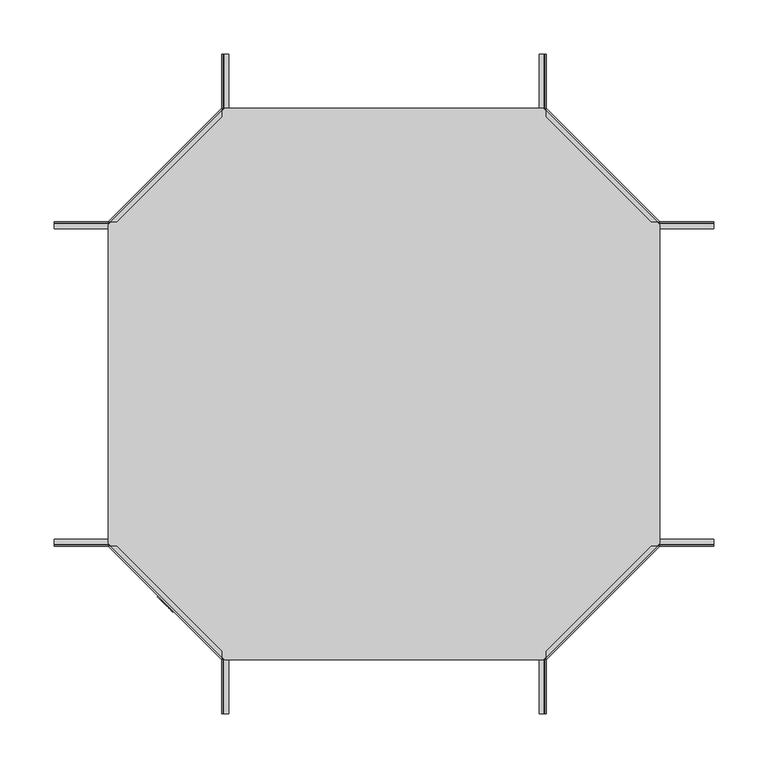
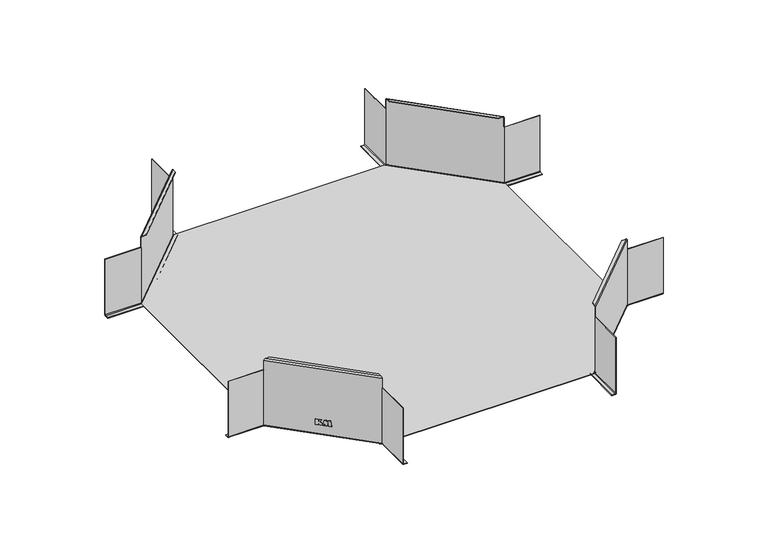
"""IFC4 building model written with IfcOpenShell, lengths in millimetres: cable carrier fitting geometry, КМ Профиль Х-разветвитель XD : Х-разветвитель XD."""

from ifc_helpers import new_model, si_unit, frame, origin, place, context, project, spatial, polyline, circle_curve, ellipse_curve, outline, extrude, source, transform, mapped, element, save
from ifc_brep_helpers import plane_surface, cylinder_surface, revolved_surface, advanced_brep


def cable_carrier_fitting_1a4faf06(model_context):
    return source(origin(), model_context, "Body", "SolidModel", [
        extrude(outline(polyline([(-7.7728441, 0.0), (-0.0215801, 0.0), (-0.0215801, -3.5758269), (-3.1869209, -3.5758269), (-0.0215801, -5.2800314), (-0.0215801, -9.1784428), (-3.5649671, -7.3111337), (-4.2503392, -5.0693826), (-7.7728441, -7.5358671), (-7.7728441, -5.4099024), (-4.1944921, -3.5072589), (-7.7728441, -3.5072589), (-7.7728441, 0.0)])), frame((-209.5985588, -196.5328121, -34.7590011), z_axis=(0.7071067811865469, 0.7071067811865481, 0.0), x_axis=(0.0, 0.0, -1.0)), (0.0, 0.0, 1.0), 0.8),
        extrude(outline(polyline([(-0.0215801, -11.2426021), (-4.6893876, -11.6262769), (-0.015533, -13.0342957), (-0.015533, -14.5088063), (-4.7048092, -15.9888749), (-0.0160096, -16.4663676), (-0.0160096, -20.3688082), (-7.7966329, -19.1773107), (-7.7966329, -15.9833558), (-4.7199779, -14.9620484), (-7.7942442, -14.1955477), (-7.7942442, -11.1648192), (-0.0215801, -9.3445386), (-0.0215801, -11.2426021)])), frame((-209.5985588, -196.5328121, -34.7590011), z_axis=(0.7071067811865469, 0.7071067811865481, 0.0), x_axis=(0.0, 0.0, -1.0)), (0.0, 0.0, 1.0), 0.8),
        advanced_brep(
        [(143.5, -305.0, -49.2), (143.5, -305.0, -50.0), (148.2, -305.0, -50.0), (150.0, -305.0, -48.2), (150.0, -305.0, 34.0), (149.2, -305.0, 34.0), (149.2, -305.0, -48.2), (148.2, -305.0, -49.2), (143.5, -252.3076118, -49.2), (143.5, -252.3076118, -50.0), (252.3076118, -143.5, -50.0), (305.0, -143.5, -50.0), (305.0, -148.2, -50.0), (255.0, -148.2, -50.0), (254.2544156, -148.2, -50.0), (148.2, -254.2544156, -50.0), (148.2, -255.0, -50.0), (150.0, -255.0, -48.2), (150.0, -255.0, 34.0), (150.0, -252.4544156, 50.0), (252.4544156, -150.0, 50.0), (247.2218254, -150.0, 50.0), (150.0, -247.2218254, 50.0), (150.0, -247.2218254, 49.2), (247.2218254, -150.0, 49.2), (252.4544156, -150.0, 49.2), (150.0, -252.4544156, 49.2), (149.2, -254.6686292, -48.2), (149.2, -255.0, -48.2), (149.2, -254.6686292, 34.0), (148.2, -255.0, -49.2), (148.2, -254.2544156, -49.2), (254.2544156, -148.2, -49.2), (255.0, -148.2, -49.2), (305.0, -148.2, -49.2), (305.0, -143.5, -49.2), (252.3076118, -143.5, -49.2), (255.0, -150.0, -48.2), (255.0, -150.0, 34.0), (255.0, -150.0, 48.2), (150.0, -255.0, 48.2), (253.8686292, -150.0, 48.2), (150.0, -253.8686292, 48.2), (254.6686292, -149.2, -48.2), (150.0, -253.8686292, 34.0), (253.8686292, -150.0, 34.0), (254.6686292, -149.2, 34.0), (305.0, -149.2, -48.2), (255.0, -149.2, -48.2), (305.0, -149.2, 34.0), (305.0, -150.0, 34.0), (305.0, -150.0, -48.2)],
        [
            (0, 1),
            (1, 2),
            (2, 3, circle_curve(frame((148.2, -305.0, -48.2), z_axis=(0.0, -1.0, 0.0), x_axis=(-1.0, 0.0, 0.0)), 1.8)),
            (3, 4),
            (4, 5),
            (5, 6),
            (6, 7, circle_curve(frame((148.2, -305.0, -48.2), z_axis=(0.0, 1.0, 0.0), x_axis=(-1.0, 0.0, 0.0)), 1.0)),
            (7, 0),
            (0, 8),
            (8, 9),
            (9, 1),
            (9, 10),
            (10, 11),
            (11, 12),
            (12, 13),
            (13, 14),
            (14, 15),
            (15, 16),
            (16, 2),
            (16, 17, circle_curve(frame((148.2, -255.0, -48.2), z_axis=(0.0, -1.0, 0.0), x_axis=(-1.0, 0.0, 0.0)), 1.8)),
            (17, 3),
            (17, 18),
            (18, 4),
            (19, 20),
            (20, 21),
            (21, 22),
            (22, 19),
            (23, 24),
            (24, 25),
            (25, 26),
            (26, 23),
            (27, 28),
            (28, 6),
            (5, 29),
            (29, 27),
            (28, 30, circle_curve(frame((148.2, -255.0, -48.2), z_axis=(0.0, 1.0, 0.0), x_axis=(-1.0, 0.0, 0.0)), 1.0)),
            (30, 7),
            (30, 31),
            (31, 32),
            (32, 33),
            (33, 34),
            (34, 35),
            (35, 36),
            (36, 8),
            (15, 17, ellipse_curve(frame((148.2, -254.2544156, -48.2), z_axis=(-0.38268343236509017, -0.9238795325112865, 0.0), x_axis=(0.9238795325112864, -0.3826834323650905, 0.0)), 1.948306, 1.8)),
            (27, 31, ellipse_curve(frame((148.2, -254.2544156, -48.2), z_axis=(0.38268343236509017, 0.9238795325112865, 0.0), x_axis=(-0.9238795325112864, 0.3826834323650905, 0.0)), 1.0823922, 1.0)),
            (36, 10),
            (14, 37, ellipse_curve(frame((254.2544156, -148.2, -48.2), z_axis=(-0.9238795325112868, -0.38268343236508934, 0.0), x_axis=(0.38268343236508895, -0.9238795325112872, 0.0)), 1.948306, 1.8)),
            (37, 17),
            (37, 38),
            (38, 39),
            (39, 40),
            (40, 18),
            (39, 20, ellipse_curve(frame((252.4544156, -150.0, 48.2), z_axis=(0.0, -1.0, 0.0), x_axis=(-1.0, 0.0, 0.0)), 2.5455844, 1.8)),
            (19, 40, ellipse_curve(frame((150.0, -252.4544156, 48.2), z_axis=(1.0, 0.0, 0.0), x_axis=(0.0, -1.0, 0.0)), 2.5455844, 1.8)),
            (23, 22),
            (21, 24),
            (25, 41, ellipse_curve(frame((252.4544156, -150.0, 48.2), z_axis=(0.0, 1.0, 0.0), x_axis=(1.0, 0.0, 0.0)), 1.4142136, 1.0)),
            (41, 42),
            (42, 26, ellipse_curve(frame((150.0, -252.4544156, 48.2), z_axis=(-1.0, 0.0, 0.0), x_axis=(0.0, 1.0, 0.0)), 1.4142136, 1.0)),
            (43, 27),
            (29, 44),
            (44, 42),
            (41, 45),
            (45, 46),
            (46, 43),
            (43, 32, ellipse_curve(frame((254.2544156, -148.2, -48.2), z_axis=(0.9238795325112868, 0.38268343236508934, 0.0), x_axis=(-0.38268343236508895, 0.9238795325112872, 0.0)), 1.0823922, 1.0)),
            (35, 11),
            (13, 37, circle_curve(frame((255.0, -148.2, -48.2), z_axis=(-1.0, 0.0, 0.0), x_axis=(0.0, 1.0, 0.0)), 1.8)),
            (47, 48),
            (48, 43),
            (46, 49),
            (49, 47),
            (48, 33, circle_curve(frame((255.0, -148.2, -48.2), z_axis=(1.0, 0.0, 0.0), x_axis=(0.0, 1.0, 0.0)), 1.0)),
            (34, 47, circle_curve(frame((305.0, -148.2, -48.2), z_axis=(-1.0, 0.0, 0.0), x_axis=(0.0, 1.0, 0.0)), 1.0)),
            (49, 50),
            (50, 51),
            (51, 12, circle_curve(frame((305.0, -148.2, -48.2), z_axis=(1.0, 0.0, 0.0), x_axis=(0.0, 1.0, 0.0)), 1.8)),
            (51, 37),
            (50, 38),
            (18, 44),
            (45, 38),
        ],
        [
            plane_surface(frame((0.0, -305.0, 0.0), z_axis=(0.0, -1.0, 0.0), x_axis=(0.0, 0.0, 1.0))),
            plane_surface(frame((143.5, -305.0, -49.2), z_axis=(-1.0, 0.0, 0.0), x_axis=(0.0, 1.0, 0.0))),
            plane_surface(frame((143.5, -305.0, -50.0), z_axis=(0.0, 0.0, -1.0), x_axis=(0.0, 1.0, 0.0))),
            cylinder_surface(frame((148.2, -305.0, -48.2), z_axis=(0.0, -1.0, 0.0), x_axis=(-1.0, 0.0, 0.0)), 1.8),
            plane_surface(frame((150.0, -305.0, -48.2), z_axis=(1.0, 0.0, 0.0), x_axis=(0.0, 1.0, 0.0))),
            plane_surface(frame((148.2, -305.0, 50.0), z_axis=(0.0, 0.0, 1.0), x_axis=(0.0, 1.0, 0.0))),
            plane_surface(frame((144.5, -305.0, 49.2), z_axis=(0.0, 0.0, -1.0), x_axis=(0.0, 1.0, 0.0))),
            plane_surface(frame((149.2, -305.0, 48.2), z_axis=(-1.0, 0.0, 0.0), x_axis=(0.0, 1.0, 0.0))),
            revolved_surface(polyline([(147.2, -255.0, -48.2), (147.2, -305.0, -48.2)]), (148.2, -305.0, -48.2), (0.0, 1.0, 0.0)),
            plane_surface(frame((148.2, -305.0, -49.2), z_axis=(0.0, 0.0, 1.0), x_axis=(0.0, 1.0, 0.0))),
            cylinder_surface(frame((148.2, -255.0, -48.2), z_axis=(0.0, -1.0, 0.0), x_axis=(-1.0, 0.0, 0.0)), 1.8),
            revolved_surface(polyline([(147.2, -253.84020203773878, -48.2), (147.2, -255.0, -48.2)]), (148.2, -255.0, -48.2), (0.0, 1.0, 0.0)),
            plane_surface(frame((143.5, -252.3076118, -49.2), z_axis=(-0.7071067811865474, 0.7071067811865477, 0.0), x_axis=(0.7071067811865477, 0.7071067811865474, 0.0))),
            cylinder_surface(frame((104.793225, -297.6611906, -48.2), z_axis=(-0.707106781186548, -0.707106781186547, 0.0), x_axis=(-0.707106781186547, 0.707106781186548, 0.0)), 1.8),
            plane_surface(frame((150.0, -255.0, -48.2), z_axis=(0.7071067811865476, -0.7071067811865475, 0.0), x_axis=(0.7071067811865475, 0.7071067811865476, 0.0))),
            cylinder_surface(frame((104.793225, -297.6611906, 48.2), z_axis=(-0.707106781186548, -0.707106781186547, 0.0), x_axis=(-0.707106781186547, 0.707106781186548, 0.0)), 1.8),
            plane_surface(frame((144.5, -252.7218254, 50.0), z_axis=(-0.7071067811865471, 0.7071067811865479, 0.0), x_axis=(0.7071067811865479, 0.7071067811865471, 0.0))),
            revolved_surface(polyline([(252.45441561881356, -148.58578641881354, 48.2), (148.58578641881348, -252.45441561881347, 48.2)]), (104.793225, -297.6611906, 48.2), (0.707106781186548, 0.707106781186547, 0.0)),
            plane_surface(frame((149.2, -254.6686292, 48.2), z_axis=(-0.7071067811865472, 0.7071067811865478, 0.0), x_axis=(0.7071067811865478, 0.7071067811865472, 0.0))),
            revolved_surface(polyline([(253.8402020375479, -147.20000000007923, -48.2), (147.20000000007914, -253.8402020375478, -48.2)]), (104.793225, -297.6611906, -48.2), (0.707106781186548, 0.707106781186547, 0.0)),
            plane_surface(frame((252.3076118, -143.5, -49.2), z_axis=(0.0, 1.0, 0.0), x_axis=(1.0, 0.0, 0.0))),
            cylinder_surface(frame((192.8679656, -148.2, -48.2), z_axis=(-1.0, 0.0, 0.0), x_axis=(0.0, 1.0, 0.0)), 1.8),
            plane_surface(frame((254.6686292, -149.2, 48.2), z_axis=(0.0, 1.0, 0.0), x_axis=(1.0, 0.0, 0.0))),
            revolved_surface(polyline([(255.0, -147.2, -48.2), (253.84020203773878, -147.2, -48.2)]), (192.8679656, -148.2, -48.2), (1.0, 0.0, 0.0)),
            plane_surface(frame((305.0, 0.0, 0.0), z_axis=(1.0, 0.0, 0.0), x_axis=(0.0, 0.0, 1.0))),
            cylinder_surface(frame((255.0, -148.2, -48.2), z_axis=(-1.0, 0.0, 0.0), x_axis=(0.0, 1.0, 0.0)), 1.8),
            plane_surface(frame((255.0, -150.0, -48.2), z_axis=(0.0, -1.0, 0.0), x_axis=(1.0, 0.0, 0.0))),
            revolved_surface(polyline([(305.0, -147.2, -48.2), (255.0, -147.2, -48.2)]), (255.0, -148.2, -48.2), (1.0, 0.0, 0.0)),
            plane_surface(frame((-178.2125753, 305.0, 34.0), z_axis=(0.0, 0.0, 1.0), x_axis=(1.0, 0.0, 0.0))),
            plane_surface(frame((150.0, -305.0, 50.0), z_axis=(-1.0, 0.0, 0.0), x_axis=(0.0, 0.0, -1.0))),
            plane_surface(frame((245.0, -150.0, 50.0), z_axis=(0.0, 1.0, 0.0), x_axis=(0.0, 0.0, -1.0))),
        ],
        [
            (0, [[1, 2, 3, 4, 5, 6, 7, 8]]),
            (1, [[-1, 9, 10, 11]]),
            (2, [[-2, -11, 12, 13, 14, 15, 16, 17, 18, 19]]),
            (3, [[-3, -19, 20, 21]]),
            (4, [[-21, 22, 23, -4]]),
            (5, [[24, 25, 26, 27]]),
            (6, [[28, 29, 30, 31]]),
            (7, [[32, 33, -6, 34, 35]]),
            (8, [[-7, -33, 36, 37]]),
            (9, [[-8, -37, 38, 39, 40, 41, 42, 43, 44, -9]]),
            (10, [[-18, 45, -20]]),
            (11, [[-32, 46, -38, -36]]),
            (12, [[-10, -44, 47, -12]]),
            (13, [[-17, 48, 49, -45]]),
            (14, [[-49, 50, 51, 52, 53, -22]]),
            (15, [[-52, 54, -24, 55]]),
            (16, [[-28, 56, -26, 57]]),
            (17, [[-30, 58, 59, 60]]),
            (18, [[61, -35, 62, 63, -59, 64, 65, 66]]),
            (19, [[-39, -46, -61, 67]]),
            (20, [[-13, -47, -43, 68]]),
            (21, [[-16, 69, -48]]),
            (22, [[70, 71, -66, 72, 73]]),
            (23, [[-40, -67, -71, 74]]),
            (24, [[-14, -68, -42, 75, -73, 76, 77, 78]]),
            (25, [[-15, -78, 79, -69]]),
            (26, [[-79, -77, 80, -50]]),
            (27, [[-41, -74, -70, -75]]),
            (28, [[81, -62, -34, -5, -23]]),
            (28, [[82, -80, -76, -72, -65]]),
            (29, [[-81, -53, -55, -27, -56, -31, -60, -63]]),
            (30, [[-82, -64, -58, -29, -57, -25, -54, -51]]),
        ],
    ),
        advanced_brep(
        [(148.2, 305.0, -49.2), (149.2, 305.0, -48.2), (149.2, 305.0, 34.0), (150.0, 305.0, 34.0), (150.0, 305.0, -48.2), (148.2, 305.0, -50.0), (143.5, 305.0, -50.0), (143.5, 305.0, -49.2), (148.2, 255.0, -49.2), (149.2, 255.0, -48.2), (149.2, 254.6686292, -48.2), (149.2, 254.6686292, 34.0), (150.0, 252.4544156, 49.2), (252.4544156, 150.0, 49.2), (247.2218254, 150.0, 49.2), (150.0, 247.2218254, 49.2), (150.0, 247.2218254, 50.0), (247.2218254, 150.0, 50.0), (252.4544156, 150.0, 50.0), (150.0, 252.4544156, 50.0), (150.0, 255.0, -48.2), (150.0, 255.0, 34.0), (148.2, 255.0, -50.0), (148.2, 254.2544156, -50.0), (254.2544156, 148.2, -50.0), (255.0, 148.2, -50.0), (305.0, 148.2, -50.0), (305.0, 143.5, -50.0), (252.3076118, 143.5, -50.0), (143.5, 252.3076118, -50.0), (143.5, 252.3076118, -49.2), (252.3076118, 143.5, -49.2), (305.0, 143.5, -49.2), (305.0, 148.2, -49.2), (255.0, 148.2, -49.2), (254.2544156, 148.2, -49.2), (148.2, 254.2544156, -49.2), (254.6686292, 149.2, -48.2), (254.6686292, 149.2, 34.0), (253.8686292, 150.0, 34.0), (253.8686292, 150.0, 48.2), (150.0, 253.8686292, 48.2), (150.0, 253.8686292, 34.0), (255.0, 150.0, 48.2), (150.0, 255.0, 48.2), (255.0, 150.0, 34.0), (255.0, 150.0, -48.2), (255.0, 149.2, -48.2), (305.0, 149.2, -48.2), (305.0, 149.2, 34.0), (305.0, 150.0, -48.2), (305.0, 150.0, 34.0)],
        [
            (0, 1, circle_curve(frame((148.2, 305.0, -48.2), z_axis=(0.0, -1.0, 0.0), x_axis=(1.0, 0.0, 0.0)), 1.0)),
            (1, 2),
            (2, 3),
            (3, 4),
            (4, 5, circle_curve(frame((148.2, 305.0, -48.2), z_axis=(0.0, 1.0, 0.0), x_axis=(1.0, 0.0, 0.0)), 1.8)),
            (5, 6),
            (6, 7),
            (7, 0),
            (0, 8),
            (8, 9, circle_curve(frame((148.2, 255.0, -48.2), z_axis=(0.0, -1.0, 0.0), x_axis=(1.0, 0.0, 0.0)), 1.0)),
            (9, 1),
            (9, 10),
            (10, 11),
            (11, 2),
            (12, 13),
            (13, 14),
            (14, 15),
            (15, 12),
            (16, 17),
            (17, 18),
            (18, 19),
            (19, 16),
            (20, 4),
            (3, 21),
            (21, 20),
            (20, 22, circle_curve(frame((148.2, 255.0, -48.2), z_axis=(0.0, 1.0, 0.0), x_axis=(1.0, 0.0, 0.0)), 1.8)),
            (22, 5),
            (22, 23),
            (23, 24),
            (24, 25),
            (25, 26),
            (26, 27),
            (27, 28),
            (28, 29),
            (29, 6),
            (29, 30),
            (30, 7),
            (30, 31),
            (31, 32),
            (32, 33),
            (33, 34),
            (34, 35),
            (35, 36),
            (36, 8),
            (36, 10, ellipse_curve(frame((148.2, 254.2544156, -48.2), z_axis=(0.3826834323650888, -0.9238795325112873, 0.0), x_axis=(-0.9238795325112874, -0.3826834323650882, 0.0)), 1.0823922, 1.0)),
            (20, 23, ellipse_curve(frame((148.2, 254.2544156, -48.2), z_axis=(-0.3826834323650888, 0.9238795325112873, 0.0), x_axis=(0.9238795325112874, 0.3826834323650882, 0.0)), 1.948306, 1.8)),
            (35, 37, ellipse_curve(frame((254.2544156, 148.2, -48.2), z_axis=(0.9238795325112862, -0.38268343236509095, 0.0), x_axis=(-0.38268343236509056, -0.9238795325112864, 0.0)), 1.0823922, 1.0)),
            (37, 10),
            (37, 38),
            (38, 39),
            (39, 40),
            (40, 41),
            (41, 42),
            (42, 11),
            (12, 41, ellipse_curve(frame((150.0, 252.4544156, 48.2), z_axis=(-1.0, 0.0, 0.0), x_axis=(0.0, -1.0, 0.0)), 1.4142136, 1.0)),
            (40, 13, ellipse_curve(frame((252.4544156, 150.0, 48.2), z_axis=(0.0, -1.0, 0.0), x_axis=(1.0, 0.0, 0.0)), 1.4142136, 1.0)),
            (16, 15),
            (14, 17),
            (43, 44),
            (44, 19, ellipse_curve(frame((150.0, 252.4544156, 48.2), z_axis=(1.0, 0.0, 0.0), x_axis=(0.0, 1.0, 0.0)), 2.5455844, 1.8)),
            (18, 43, ellipse_curve(frame((252.4544156, 150.0, 48.2), z_axis=(0.0, 1.0, 0.0), x_axis=(-1.0, 0.0, 0.0)), 2.5455844, 1.8)),
            (43, 45),
            (45, 46),
            (46, 20),
            (21, 44),
            (46, 24, ellipse_curve(frame((254.2544156, 148.2, -48.2), z_axis=(-0.9238795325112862, 0.38268343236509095, 0.0), x_axis=(0.38268343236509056, 0.9238795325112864, 0.0)), 1.948306, 1.8)),
            (28, 31),
            (34, 47, circle_curve(frame((255.0, 148.2, -48.2), z_axis=(1.0, 0.0, 0.0), x_axis=(0.0, 1.0, 0.0)), 1.0)),
            (47, 37),
            (47, 48),
            (48, 49),
            (49, 38),
            (46, 25, circle_curve(frame((255.0, 148.2, -48.2), z_axis=(-1.0, 0.0, 0.0), x_axis=(0.0, 1.0, 0.0)), 1.8)),
            (27, 32),
            (26, 50, circle_curve(frame((305.0, 148.2, -48.2), z_axis=(1.0, 0.0, 0.0), x_axis=(0.0, 1.0, 0.0)), 1.8)),
            (50, 51),
            (51, 49),
            (48, 33, circle_curve(frame((305.0, 148.2, -48.2), z_axis=(-1.0, 0.0, 0.0), x_axis=(0.0, 1.0, 0.0)), 1.0)),
            (50, 46),
            (45, 51),
            (42, 21),
            (45, 39),
        ],
        [
            plane_surface(frame((0.0, 305.0, 0.0), z_axis=(0.0, 1.0, 0.0), x_axis=(0.0, 0.0, 1.0))),
            revolved_surface(polyline([(149.2, 255.0, -48.2), (149.2, 305.0, -48.2)]), (148.2, 305.0, -48.2), (0.0, -1.0, 0.0)),
            plane_surface(frame((149.2, 305.0, -48.2), z_axis=(-1.0, 0.0, 0.0), x_axis=(0.0, -1.0, 0.0))),
            plane_surface(frame((148.2, 305.0, 49.2), z_axis=(0.0, 0.0, -1.0), x_axis=(0.0, -1.0, 0.0))),
            plane_surface(frame((144.5, 305.0, 50.0), z_axis=(0.0, 0.0, 1.0), x_axis=(0.0, -1.0, 0.0))),
            plane_surface(frame((150.0, 305.0, 48.2), z_axis=(1.0, 0.0, 0.0), x_axis=(0.0, -1.0, 0.0))),
            cylinder_surface(frame((148.2, 305.0, -48.2), z_axis=(0.0, 1.0, 0.0), x_axis=(1.0, 0.0, 0.0)), 1.8),
            plane_surface(frame((148.2, 305.0, -50.0), z_axis=(0.0, 0.0, -1.0), x_axis=(0.0, -1.0, 0.0))),
            plane_surface(frame((143.5, 305.0, -50.0), z_axis=(-1.0, 0.0, 0.0), x_axis=(0.0, -1.0, 0.0))),
            plane_surface(frame((143.5, 305.0, -49.2), z_axis=(0.0, 0.0, 1.0), x_axis=(0.0, -1.0, 0.0))),
            revolved_surface(polyline([(149.2, 253.84020203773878, -48.2), (149.2, 255.0, -48.2)]), (148.2, 255.0, -48.2), (0.0, -1.0, 0.0)),
            cylinder_surface(frame((148.2, 255.0, -48.2), z_axis=(0.0, 1.0, 0.0), x_axis=(1.0, 0.0, 0.0)), 1.8),
            revolved_surface(polyline([(255.2544155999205, 148.61421356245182, -48.2), (148.6142135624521, 255.25441559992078, -48.2)]), (104.793225, 297.6611906, -48.2), (0.7071067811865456, -0.7071067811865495, 0.0)),
            plane_surface(frame((149.2, 254.6686292, -48.2), z_axis=(-0.7071067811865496, -0.7071067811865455, 0.0), x_axis=(0.7071067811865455, -0.7071067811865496, 0.0))),
            revolved_surface(polyline([(253.86862918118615, 149.99999998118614, 48.2), (149.99999998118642, 253.86862918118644, 48.2)]), (104.793225, 297.6611906, 48.2), (0.7071067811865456, -0.7071067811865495, 0.0)),
            plane_surface(frame((144.5, 252.7218254, 49.2), z_axis=(-0.7071067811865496, -0.7071067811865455, 0.0), x_axis=(0.7071067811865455, -0.7071067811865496, 0.0))),
            cylinder_surface(frame((104.793225, 297.6611906, 48.2), z_axis=(-0.7071067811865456, 0.7071067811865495, 0.0), x_axis=(0.7071067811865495, 0.7071067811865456, 0.0)), 1.8),
            plane_surface(frame((150.0, 255.0, 48.2), z_axis=(0.7071067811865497, 0.7071067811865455, 0.0), x_axis=(0.7071067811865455, -0.7071067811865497, 0.0))),
            cylinder_surface(frame((104.793225, 297.6611906, -48.2), z_axis=(-0.7071067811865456, 0.7071067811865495, 0.0), x_axis=(0.7071067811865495, 0.7071067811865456, 0.0)), 1.8),
            plane_surface(frame((143.5, 252.3076118, -50.0), z_axis=(-0.7071067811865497, -0.7071067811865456, 0.0), x_axis=(0.7071067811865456, -0.7071067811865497, 0.0))),
            revolved_surface(polyline([(255.0, 149.2, -48.2), (253.84020203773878, 149.2, -48.2)]), (192.8679656, 148.2, -48.2), (1.0, 0.0, 0.0)),
            plane_surface(frame((254.6686292, 149.2, -48.2), z_axis=(0.0, -1.0, 0.0), x_axis=(1.0, 0.0, 0.0))),
            cylinder_surface(frame((192.8679656, 148.2, -48.2), z_axis=(-1.0, 0.0, 0.0), x_axis=(0.0, 1.0, 0.0)), 1.8),
            plane_surface(frame((252.3076118, 143.5, -50.0), z_axis=(0.0, -1.0, 0.0), x_axis=(1.0, 0.0, 0.0))),
            plane_surface(frame((305.0, 0.0, 0.0), z_axis=(1.0, 0.0, 0.0), x_axis=(0.0, 0.0, 1.0))),
            revolved_surface(polyline([(305.0, 149.2, -48.2), (255.0, 149.2, -48.2)]), (255.0, 148.2, -48.2), (1.0, 0.0, 0.0)),
            plane_surface(frame((255.0, 150.0, 48.2), z_axis=(0.0, 1.0, 0.0), x_axis=(1.0, 0.0, 0.0))),
            cylinder_surface(frame((255.0, 148.2, -48.2), z_axis=(-1.0, 0.0, 0.0), x_axis=(0.0, 1.0, 0.0)), 1.8),
            plane_surface(frame((-178.2125753, 305.0, 34.0), z_axis=(0.0, 0.0, 1.0), x_axis=(1.0, 0.0, 0.0))),
            plane_surface(frame((150.0, 245.0, 50.0), z_axis=(-1.0, 0.0, 0.0), x_axis=(0.0, 0.0, -1.0))),
            plane_surface(frame((305.0, 150.0, 50.0), z_axis=(0.0, -1.0, 0.0), x_axis=(0.0, 0.0, -1.0))),
        ],
        [
            (0, [[1, 2, 3, 4, 5, 6, 7, 8]]),
            (1, [[-1, 9, 10, 11]]),
            (2, [[-11, 12, 13, 14, -2]]),
            (3, [[15, 16, 17, 18]]),
            (4, [[19, 20, 21, 22]]),
            (5, [[23, -4, 24, 25]]),
            (6, [[-5, -23, 26, 27]]),
            (7, [[-6, -27, 28, 29, 30, 31, 32, 33, 34, 35]]),
            (8, [[-7, -35, 36, 37]]),
            (9, [[-8, -37, 38, 39, 40, 41, 42, 43, 44, -9]]),
            (10, [[-10, -44, 45, -12]]),
            (11, [[-26, 46, -28]]),
            (12, [[-43, 47, 48, -45]]),
            (13, [[-48, 49, 50, 51, 52, 53, 54, -13]]),
            (14, [[-15, 55, -52, 56]]),
            (15, [[-19, 57, -17, 58]]),
            (16, [[59, 60, -21, 61]]),
            (17, [[-59, 62, 63, 64, -25, 65]]),
            (18, [[-29, -46, -64, 66]]),
            (19, [[-34, 67, -38, -36]]),
            (20, [[-42, 68, 69, -47]]),
            (21, [[-69, 70, 71, 72, -49]]),
            (22, [[-30, -66, 73]]),
            (23, [[-33, 74, -39, -67]]),
            (24, [[-32, 75, 76, 77, -71, 78, -40, -74]]),
            (25, [[-41, -78, -70, -68]]),
            (26, [[79, -63, 80, -76]]),
            (27, [[-31, -73, -79, -75]]),
            (28, [[81, -24, -3, -14, -54]]),
            (28, [[82, -50, -72, -77, -80]]),
            (29, [[-81, -53, -55, -18, -57, -22, -60, -65]]),
            (30, [[-82, -62, -61, -20, -58, -16, -56, -51]]),
        ],
    ),
        advanced_brep(
        [(-150.0, -305.0, -48.2), (-148.2, -305.0, -50.0), (-143.5, -305.0, -50.0), (-143.5, -305.0, -49.2), (-148.2, -305.0, -49.2), (-149.2, -305.0, -48.2), (-149.2, -305.0, 34.0), (-150.0, -305.0, 34.0), (-150.0, -247.2218254, 50.0), (-247.2218254, -150.0, 50.0), (-252.4544156, -150.0, 50.0), (-150.0, -252.4544156, 50.0), (-150.0, -255.0, -48.2), (-150.0, -255.0, 34.0), (-148.2, -255.0, -50.0), (-148.2, -254.2544156, -50.0), (-254.2544156, -148.2, -50.0), (-255.0, -148.2, -50.0), (-305.0, -148.2, -50.0), (-305.0, -143.5, -50.0), (-252.3076118, -143.5, -50.0), (-143.5, -252.3076118, -50.0), (-143.5, -252.3076118, -49.2), (-252.3076118, -143.5, -49.2), (-305.0, -143.5, -49.2), (-305.0, -148.2, -49.2), (-255.0, -148.2, -49.2), (-254.2544156, -148.2, -49.2), (-148.2, -254.2544156, -49.2), (-148.2, -255.0, -49.2), (-149.2, -255.0, -48.2), (-149.2, -254.6686292, -48.2), (-149.2, -254.6686292, 34.0), (-150.0, -252.4544156, 49.2), (-252.4544156, -150.0, 49.2), (-247.2218254, -150.0, 49.2), (-150.0, -247.2218254, 49.2), (-255.0, -150.0, 48.2), (-150.0, -255.0, 48.2), (-255.0, -150.0, 34.0), (-255.0, -150.0, -48.2), (-254.6686292, -149.2, -48.2), (-254.6686292, -149.2, 34.0), (-253.8686292, -150.0, 34.0), (-253.8686292, -150.0, 48.2), (-150.0, -253.8686292, 48.2), (-150.0, -253.8686292, 34.0), (-255.0, -149.2, -48.2), (-305.0, -149.2, -48.2), (-305.0, -149.2, 34.0), (-305.0, -150.0, -48.2), (-305.0, -150.0, 34.0)],
        [
            (0, 1, circle_curve(frame((-148.2, -305.0, -48.2), z_axis=(0.0, -1.0, 0.0), x_axis=(-1.0, 0.0, 0.0)), 1.8)),
            (1, 2),
            (2, 3),
            (3, 4),
            (4, 5, circle_curve(frame((-148.2, -305.0, -48.2), z_axis=(0.0, 1.0, 0.0), x_axis=(-1.0, 0.0, 0.0)), 1.0)),
            (5, 6),
            (6, 7),
            (7, 0),
            (8, 9),
            (9, 10),
            (10, 11),
            (11, 8),
            (12, 0),
            (7, 13),
            (13, 12),
            (12, 14, circle_curve(frame((-148.2, -255.0, -48.2), z_axis=(0.0, -1.0, 0.0), x_axis=(-1.0, 0.0, 0.0)), 1.8)),
            (14, 1),
            (14, 15),
            (15, 16),
            (16, 17),
            (17, 18),
            (18, 19),
            (19, 20),
            (20, 21),
            (21, 2),
            (21, 22),
            (22, 3),
            (22, 23),
            (23, 24),
            (24, 25),
            (25, 26),
            (26, 27),
            (27, 28),
            (28, 29),
            (29, 4),
            (29, 30, circle_curve(frame((-148.2, -255.0, -48.2), z_axis=(0.0, 1.0, 0.0), x_axis=(-1.0, 0.0, 0.0)), 1.0)),
            (30, 5),
            (30, 31),
            (31, 32),
            (32, 6),
            (33, 34),
            (34, 35),
            (35, 36),
            (36, 33),
            (12, 15, ellipse_curve(frame((-148.2, -254.2544156, -48.2), z_axis=(0.38268343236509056, -0.9238795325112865, 0.0), x_axis=(-0.9238795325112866, -0.38268343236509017, 0.0)), 1.948306, 1.8)),
            (28, 31, ellipse_curve(frame((-148.2, -254.2544156, -48.2), z_axis=(-0.38268343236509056, 0.9238795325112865, 0.0), x_axis=(0.9238795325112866, 0.38268343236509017, 0.0)), 1.0823922, 1.0)),
            (37, 38),
            (38, 11, ellipse_curve(frame((-150.0, -252.4544156, 48.2), z_axis=(-1.0, 0.0, 0.0), x_axis=(0.0, -1.0, 0.0)), 2.5455844, 1.8)),
            (10, 37, ellipse_curve(frame((-252.4544156, -150.0, 48.2), z_axis=(0.0, -1.0, 0.0), x_axis=(1.0, 0.0, 0.0)), 2.5455844, 1.8)),
            (37, 39),
            (39, 40),
            (40, 12),
            (13, 38),
            (40, 16, ellipse_curve(frame((-254.2544156, -148.2, -48.2), z_axis=(0.9238795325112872, -0.382683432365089, 0.0), x_axis=(-0.38268343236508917, -0.923879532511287, 0.0)), 1.948306, 1.8)),
            (20, 23),
            (27, 41, ellipse_curve(frame((-254.2544156, -148.2, -48.2), z_axis=(-0.9238795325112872, 0.382683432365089, 0.0), x_axis=(0.38268343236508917, 0.923879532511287, 0.0)), 1.0823922, 1.0)),
            (41, 31),
            (41, 42),
            (42, 43),
            (43, 44),
            (44, 45),
            (45, 46),
            (46, 32),
            (33, 45, ellipse_curve(frame((-150.0, -252.4544156, 48.2), z_axis=(1.0, 0.0, 0.0), x_axis=(0.0, 1.0, 0.0)), 1.4142136, 1.0)),
            (44, 34, ellipse_curve(frame((-252.4544156, -150.0, 48.2), z_axis=(0.0, 1.0, 0.0), x_axis=(-1.0, 0.0, 0.0)), 1.4142136, 1.0)),
            (8, 36),
            (35, 9),
            (40, 17, circle_curve(frame((-255.0, -148.2, -48.2), z_axis=(1.0, 0.0, 0.0), x_axis=(0.0, -1.0, 0.0)), 1.8)),
            (19, 24),
            (26, 47, circle_curve(frame((-255.0, -148.2, -48.2), z_axis=(-1.0, 0.0, 0.0), x_axis=(0.0, -1.0, 0.0)), 1.0)),
            (47, 41),
            (47, 48),
            (48, 49),
            (49, 42),
            (18, 50, circle_curve(frame((-305.0, -148.2, -48.2), z_axis=(-1.0, 0.0, 0.0), x_axis=(0.0, -1.0, 0.0)), 1.8)),
            (50, 51),
            (51, 49),
            (48, 25, circle_curve(frame((-305.0, -148.2, -48.2), z_axis=(1.0, 0.0, 0.0), x_axis=(0.0, -1.0, 0.0)), 1.0)),
            (50, 40),
            (39, 51),
            (46, 13),
            (39, 43),
        ],
        [
            plane_surface(frame((0.0, -305.0, 0.0), z_axis=(0.0, -1.0, 0.0), x_axis=(0.0, 0.0, 1.0))),
            plane_surface(frame((-144.5, -305.0, 50.0), z_axis=(0.0, 0.0, 1.0), x_axis=(0.0, 1.0, 0.0))),
            plane_surface(frame((-150.0, -305.0, 48.2), z_axis=(-1.0, 0.0, 0.0), x_axis=(0.0, 1.0, 0.0))),
            cylinder_surface(frame((-148.2, -305.0, -48.2), z_axis=(0.0, -1.0, 0.0), x_axis=(-1.0, 0.0, 0.0)), 1.8),
            plane_surface(frame((-148.2, -305.0, -50.0), z_axis=(0.0, 0.0, -1.0), x_axis=(0.0, 1.0, 0.0))),
            plane_surface(frame((-143.5, -305.0, -50.0), z_axis=(1.0, 0.0, 0.0), x_axis=(0.0, 1.0, 0.0))),
            plane_surface(frame((-143.5, -305.0, -49.2), z_axis=(0.0, 0.0, 1.0), x_axis=(0.0, 1.0, 0.0))),
            revolved_surface(polyline([(-149.2, -255.0, -48.2), (-149.2, -305.0, -48.2)]), (-148.2, -305.0, -48.2), (0.0, 1.0, 0.0)),
            plane_surface(frame((-149.2, -305.0, -48.2), z_axis=(1.0, 0.0, 0.0), x_axis=(0.0, 1.0, 0.0))),
            plane_surface(frame((-148.2, -305.0, 49.2), z_axis=(0.0, 0.0, -1.0), x_axis=(0.0, 1.0, 0.0))),
            cylinder_surface(frame((-148.2, -255.0, -48.2), z_axis=(0.0, -1.0, 0.0), x_axis=(-1.0, 0.0, 0.0)), 1.8),
            revolved_surface(polyline([(-149.2, -253.84020203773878, -48.2), (-149.2, -255.0, -48.2)]), (-148.2, -255.0, -48.2), (0.0, 1.0, 0.0)),
            cylinder_surface(frame((-104.793225, -297.6611906, 48.2), z_axis=(0.7071067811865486, -0.7071067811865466, 0.0), x_axis=(-0.7071067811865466, -0.7071067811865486, 0.0)), 1.8),
            plane_surface(frame((-150.0, -255.0, 48.2), z_axis=(-0.7071067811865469, -0.7071067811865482, 0.0), x_axis=(-0.7071067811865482, 0.7071067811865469, 0.0))),
            cylinder_surface(frame((-104.793225, -297.6611906, -48.2), z_axis=(0.7071067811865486, -0.7071067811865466, 0.0), x_axis=(-0.7071067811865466, -0.7071067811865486, 0.0)), 1.8),
            plane_surface(frame((-143.5, -252.3076118, -50.0), z_axis=(0.7071067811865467, 0.7071067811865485, 0.0), x_axis=(-0.7071067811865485, 0.7071067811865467, 0.0))),
            revolved_surface(polyline([(-255.25441559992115, -148.6142135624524, -48.2), (-148.61421356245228, -255.25441559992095, -48.2)]), (-104.793225, -297.6611906, -48.2), (-0.7071067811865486, 0.7071067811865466, 0.0)),
            plane_surface(frame((-149.2, -254.6686292, -48.2), z_axis=(0.7071067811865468, 0.7071067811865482, 0.0), x_axis=(-0.7071067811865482, 0.7071067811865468, 0.0))),
            revolved_surface(polyline([(-253.86862918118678, -149.99999998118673, 48.2), (-149.99999998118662, -253.8686291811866, 48.2)]), (-104.793225, -297.6611906, 48.2), (-0.7071067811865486, 0.7071067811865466, 0.0)),
            plane_surface(frame((-144.5, -252.7218254, 49.2), z_axis=(0.7071067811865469, 0.7071067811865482, 0.0), x_axis=(-0.7071067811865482, 0.7071067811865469, 0.0))),
            cylinder_surface(frame((-192.8679656, -148.2, -48.2), z_axis=(1.0, 0.0, 0.0), x_axis=(0.0, -1.0, 0.0)), 1.8),
            plane_surface(frame((-252.3076118, -143.5, -50.0), z_axis=(0.0, 1.0, 0.0), x_axis=(-1.0, 0.0, 0.0))),
            revolved_surface(polyline([(-255.0, -149.2, -48.2), (-253.84020203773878, -149.2, -48.2)]), (-192.8679656, -148.2, -48.2), (-1.0, 0.0, 0.0)),
            plane_surface(frame((-254.6686292, -149.2, -48.2), z_axis=(0.0, 1.0, 0.0), x_axis=(-1.0, 0.0, 0.0))),
            plane_surface(frame((-305.0, 0.0, 0.0), z_axis=(-1.0, 0.0, 0.0), x_axis=(0.0, 0.0, 1.0))),
            plane_surface(frame((-255.0, -150.0, 48.2), z_axis=(0.0, -1.0, 0.0), x_axis=(-1.0, 0.0, 0.0))),
            cylinder_surface(frame((-255.0, -148.2, -48.2), z_axis=(1.0, 0.0, 0.0), x_axis=(0.0, -1.0, 0.0)), 1.8),
            revolved_surface(polyline([(-305.0, -149.2, -48.2), (-255.0, -149.2, -48.2)]), (-255.0, -148.2, -48.2), (-1.0, 0.0, 0.0)),
            plane_surface(frame((-178.2125753, 305.0, 34.0), z_axis=(0.0, 0.0, 1.0), x_axis=(1.0, 0.0, 0.0))),
            plane_surface(frame((-305.0, -150.0, 50.0), z_axis=(0.0, 1.0, 0.0), x_axis=(0.0, 0.0, -1.0))),
            plane_surface(frame((-150.0, -245.0, 50.0), z_axis=(1.0, 0.0, 0.0), x_axis=(0.0, 0.0, -1.0))),
        ],
        [
            (0, [[1, 2, 3, 4, 5, 6, 7, 8]]),
            (1, [[9, 10, 11, 12]]),
            (2, [[13, -8, 14, 15]]),
            (3, [[-1, -13, 16, 17]]),
            (4, [[-2, -17, 18, 19, 20, 21, 22, 23, 24, 25]]),
            (5, [[-3, -25, 26, 27]]),
            (6, [[-4, -27, 28, 29, 30, 31, 32, 33, 34, 35]]),
            (7, [[-5, -35, 36, 37]]),
            (8, [[-37, 38, 39, 40, -6]]),
            (9, [[41, 42, 43, 44]]),
            (10, [[-16, 45, -18]]),
            (11, [[-34, 46, -38, -36]]),
            (12, [[47, 48, -11, 49]]),
            (13, [[-47, 50, 51, 52, -15, 53]]),
            (14, [[-19, -45, -52, 54]]),
            (15, [[-24, 55, -28, -26]]),
            (16, [[-33, 56, 57, -46]]),
            (17, [[-57, 58, 59, 60, 61, 62, 63, -39]]),
            (18, [[-41, 64, -61, 65]]),
            (19, [[-9, 66, -43, 67]]),
            (20, [[-20, -54, 68]]),
            (21, [[-23, 69, -29, -55]]),
            (22, [[-32, 70, 71, -56]]),
            (23, [[-71, 72, 73, 74, -58]]),
            (24, [[-22, 75, 76, 77, -73, 78, -30, -69]]),
            (25, [[79, -51, 80, -76]]),
            (26, [[-21, -68, -79, -75]]),
            (27, [[-31, -78, -72, -70]]),
            (28, [[81, -14, -7, -40, -63]]),
            (28, [[82, -59, -74, -77, -80]]),
            (29, [[-82, -50, -49, -10, -67, -42, -65, -60]]),
            (30, [[-81, -62, -64, -44, -66, -12, -48, -53]]),
        ],
    ),
        advanced_brep(
        [(-149.2, 305.0, -48.2), (-148.2, 305.0, -49.2), (-143.5, 305.0, -49.2), (-143.5, 305.0, -50.0), (-148.2, 305.0, -50.0), (-150.0, 305.0, -48.2), (-150.0, 305.0, 34.0), (-149.2, 305.0, 34.0), (-150.0, 247.2218254, 49.2), (-247.2218254, 150.0, 49.2), (-252.4544156, 150.0, 49.2), (-150.0, 252.4544156, 49.2), (-149.2, 254.6686292, -48.2), (-149.2, 255.0, -48.2), (-149.2, 254.6686292, 34.0), (-148.2, 255.0, -49.2), (-148.2, 254.2544156, -49.2), (-254.2544156, 148.2, -49.2), (-255.0, 148.2, -49.2), (-305.0, 148.2, -49.2), (-305.0, 143.5, -49.2), (-252.3076118, 143.5, -49.2), (-143.5, 252.3076118, -49.2), (-143.5, 252.3076118, -50.0), (-252.3076118, 143.5, -50.0), (-305.0, 143.5, -50.0), (-305.0, 148.2, -50.0), (-255.0, 148.2, -50.0), (-254.2544156, 148.2, -50.0), (-148.2, 254.2544156, -50.0), (-148.2, 255.0, -50.0), (-150.0, 255.0, -48.2), (-150.0, 255.0, 34.0), (-150.0, 252.4544156, 50.0), (-252.4544156, 150.0, 50.0), (-247.2218254, 150.0, 50.0), (-150.0, 247.2218254, 50.0), (-253.8686292, 150.0, 48.2), (-150.0, 253.8686292, 48.2), (-254.6686292, 149.2, -48.2), (-150.0, 253.8686292, 34.0), (-253.8686292, 150.0, 34.0), (-254.6686292, 149.2, 34.0), (-255.0, 150.0, -48.2), (-255.0, 150.0, 34.0), (-255.0, 150.0, 48.2), (-150.0, 255.0, 48.2), (-305.0, 149.2, -48.2), (-255.0, 149.2, -48.2), (-305.0, 149.2, 34.0), (-305.0, 150.0, 34.0), (-305.0, 150.0, -48.2)],
        [
            (0, 1, circle_curve(frame((-148.2, 305.0, -48.2), z_axis=(0.0, -1.0, 0.0), x_axis=(1.0, 0.0, 0.0)), 1.0)),
            (1, 2),
            (2, 3),
            (3, 4),
            (4, 5, circle_curve(frame((-148.2, 305.0, -48.2), z_axis=(0.0, 1.0, 0.0), x_axis=(1.0, 0.0, 0.0)), 1.8)),
            (5, 6),
            (6, 7),
            (7, 0),
            (8, 9),
            (9, 10),
            (10, 11),
            (11, 8),
            (12, 13),
            (13, 0),
            (7, 14),
            (14, 12),
            (13, 15, circle_curve(frame((-148.2, 255.0, -48.2), z_axis=(0.0, -1.0, 0.0), x_axis=(1.0, 0.0, 0.0)), 1.0)),
            (15, 1),
            (15, 16),
            (16, 17),
            (17, 18),
            (18, 19),
            (19, 20),
            (20, 21),
            (21, 22),
            (22, 2),
            (22, 23),
            (23, 3),
            (23, 24),
            (24, 25),
            (25, 26),
            (26, 27),
            (27, 28),
            (28, 29),
            (29, 30),
            (30, 4),
            (30, 31, circle_curve(frame((-148.2, 255.0, -48.2), z_axis=(0.0, 1.0, 0.0), x_axis=(1.0, 0.0, 0.0)), 1.8)),
            (31, 5),
            (31, 32),
            (32, 6),
            (33, 34),
            (34, 35),
            (35, 36),
            (36, 33),
            (12, 16, ellipse_curve(frame((-148.2, 254.2544156, -48.2), z_axis=(-0.38268343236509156, -0.9238795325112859, 0.0), x_axis=(0.9238795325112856, -0.38268343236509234, 0.0)), 1.0823922, 1.0)),
            (29, 31, ellipse_curve(frame((-148.2, 254.2544156, -48.2), z_axis=(0.38268343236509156, 0.9238795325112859, 0.0), x_axis=(-0.9238795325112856, 0.38268343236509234, 0.0)), 1.948306, 1.8)),
            (8, 36),
            (35, 9),
            (10, 37, ellipse_curve(frame((-252.4544156, 150.0, 48.2), z_axis=(0.0, -1.0, 0.0), x_axis=(-1.0, 0.0, 0.0)), 1.4142136, 1.0)),
            (37, 38),
            (38, 11, ellipse_curve(frame((-150.0, 252.4544156, 48.2), z_axis=(1.0, 0.0, 0.0), x_axis=(0.0, -1.0, 0.0)), 1.4142136, 1.0)),
            (39, 12),
            (14, 40),
            (40, 38),
            (37, 41),
            (41, 42),
            (42, 39),
            (39, 17, ellipse_curve(frame((-254.2544156, 148.2, -48.2), z_axis=(-0.9238795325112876, -0.382683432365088, 0.0), x_axis=(0.38268343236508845, -0.9238795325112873, 0.0)), 1.0823922, 1.0)),
            (21, 24),
            (28, 43, ellipse_curve(frame((-254.2544156, 148.2, -48.2), z_axis=(0.9238795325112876, 0.382683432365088, 0.0), x_axis=(-0.38268343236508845, 0.9238795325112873, 0.0)), 1.948306, 1.8)),
            (43, 31),
            (43, 44),
            (44, 45),
            (45, 46),
            (46, 32),
            (45, 34, ellipse_curve(frame((-252.4544156, 150.0, 48.2), z_axis=(0.0, 1.0, 0.0), x_axis=(1.0, 0.0, 0.0)), 2.5455844, 1.8)),
            (33, 46, ellipse_curve(frame((-150.0, 252.4544156, 48.2), z_axis=(-1.0, 0.0, 0.0), x_axis=(0.0, 1.0, 0.0)), 2.5455844, 1.8)),
            (47, 48),
            (48, 39),
            (42, 49),
            (49, 47),
            (48, 18, circle_curve(frame((-255.0, 148.2, -48.2), z_axis=(-1.0, 0.0, 0.0), x_axis=(0.0, -1.0, 0.0)), 1.0)),
            (20, 25),
            (27, 43, circle_curve(frame((-255.0, 148.2, -48.2), z_axis=(1.0, 0.0, 0.0), x_axis=(0.0, -1.0, 0.0)), 1.8)),
            (19, 47, circle_curve(frame((-305.0, 148.2, -48.2), z_axis=(1.0, 0.0, 0.0), x_axis=(0.0, -1.0, 0.0)), 1.0)),
            (49, 50),
            (50, 51),
            (51, 26, circle_curve(frame((-305.0, 148.2, -48.2), z_axis=(-1.0, 0.0, 0.0), x_axis=(0.0, -1.0, 0.0)), 1.8)),
            (51, 43),
            (50, 44),
            (32, 40),
            (41, 44),
        ],
        [
            plane_surface(frame((0.0, 305.0, 0.0), z_axis=(0.0, 1.0, 0.0), x_axis=(0.0, 0.0, 1.0))),
            plane_surface(frame((-144.5, 305.0, 49.2), z_axis=(0.0, 0.0, -1.0), x_axis=(0.0, -1.0, 0.0))),
            plane_surface(frame((-149.2, 305.0, 48.2), z_axis=(1.0, 0.0, 0.0), x_axis=(0.0, -1.0, 0.0))),
            revolved_surface(polyline([(-147.2, 255.0, -48.2), (-147.2, 305.0, -48.2)]), (-148.2, 305.0, -48.2), (0.0, -1.0, 0.0)),
            plane_surface(frame((-148.2, 305.0, -49.2), z_axis=(0.0, 0.0, 1.0), x_axis=(0.0, -1.0, 0.0))),
            plane_surface(frame((-143.5, 305.0, -49.2), z_axis=(1.0, 0.0, 0.0), x_axis=(0.0, -1.0, 0.0))),
            plane_surface(frame((-143.5, 305.0, -50.0), z_axis=(0.0, 0.0, -1.0), x_axis=(0.0, -1.0, 0.0))),
            cylinder_surface(frame((-148.2, 305.0, -48.2), z_axis=(0.0, 1.0, 0.0), x_axis=(1.0, 0.0, 0.0)), 1.8),
            plane_surface(frame((-150.0, 305.0, -48.2), z_axis=(-1.0, 0.0, 0.0), x_axis=(0.0, -1.0, 0.0))),
            plane_surface(frame((-148.2, 305.0, 50.0), z_axis=(0.0, 0.0, 1.0), x_axis=(0.0, -1.0, 0.0))),
            revolved_surface(polyline([(-147.2, 253.84020203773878, -48.2), (-147.2, 255.0, -48.2)]), (-148.2, 255.0, -48.2), (0.0, -1.0, 0.0)),
            cylinder_surface(frame((-148.2, 255.0, -48.2), z_axis=(0.0, 1.0, 0.0), x_axis=(1.0, 0.0, 0.0)), 1.8),
            plane_surface(frame((-144.5, 252.7218254, 50.0), z_axis=(0.7071067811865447, -0.7071067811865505, 0.0), x_axis=(-0.7071067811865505, -0.7071067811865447, 0.0))),
            revolved_surface(polyline([(-252.4544156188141, 148.585786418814, 48.2), (-148.58578641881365, 252.4544156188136, 48.2)]), (-104.793225, 297.6611906, 48.2), (-0.7071067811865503, -0.7071067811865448, 0.0)),
            plane_surface(frame((-149.2, 254.6686292, 48.2), z_axis=(0.7071067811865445, -0.7071067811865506, 0.0), x_axis=(-0.7071067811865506, -0.7071067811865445, 0.0))),
            revolved_surface(polyline([(-253.8402020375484, 147.20000000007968, -48.2), (-147.2000000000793, 253.84020203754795, -48.2)]), (-104.793225, 297.6611906, -48.2), (-0.7071067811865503, -0.7071067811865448, 0.0)),
            plane_surface(frame((-143.5, 252.3076118, -49.2), z_axis=(0.7071067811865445, -0.7071067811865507, 0.0), x_axis=(-0.7071067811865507, -0.7071067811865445, 0.0))),
            cylinder_surface(frame((-104.793225, 297.6611906, -48.2), z_axis=(0.7071067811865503, 0.7071067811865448, 0.0), x_axis=(0.7071067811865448, -0.7071067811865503, 0.0)), 1.8),
            plane_surface(frame((-150.0, 255.0, -48.2), z_axis=(-0.7071067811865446, 0.7071067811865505, 0.0), x_axis=(-0.7071067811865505, -0.7071067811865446, 0.0))),
            cylinder_surface(frame((-104.793225, 297.6611906, 48.2), z_axis=(0.7071067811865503, 0.7071067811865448, 0.0), x_axis=(0.7071067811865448, -0.7071067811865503, 0.0)), 1.8),
            plane_surface(frame((-254.6686292, 149.2, 48.2), z_axis=(0.0, -1.0, 0.0), x_axis=(-1.0, 0.0, 0.0))),
            revolved_surface(polyline([(-255.0, 147.2, -48.2), (-253.84020203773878, 147.2, -48.2)]), (-192.8679656, 148.2, -48.2), (-1.0, 0.0, 0.0)),
            plane_surface(frame((-252.3076118, 143.5, -49.2), z_axis=(0.0, -1.0, 0.0), x_axis=(-1.0, 0.0, 0.0))),
            cylinder_surface(frame((-192.8679656, 148.2, -48.2), z_axis=(1.0, 0.0, 0.0), x_axis=(0.0, -1.0, 0.0)), 1.8),
            plane_surface(frame((-305.0, 0.0, 0.0), z_axis=(-1.0, 0.0, 0.0), x_axis=(0.0, 0.0, 1.0))),
            revolved_surface(polyline([(-305.0, 147.2, -48.2), (-255.0, 147.2, -48.2)]), (-255.0, 148.2, -48.2), (-1.0, 0.0, 0.0)),
            cylinder_surface(frame((-255.0, 148.2, -48.2), z_axis=(1.0, 0.0, 0.0), x_axis=(0.0, -1.0, 0.0)), 1.8),
            plane_surface(frame((-255.0, 150.0, -48.2), z_axis=(0.0, 1.0, 0.0), x_axis=(-1.0, 0.0, 0.0))),
            plane_surface(frame((-178.2125753, 305.0, 34.0), z_axis=(0.0, 0.0, 1.0), x_axis=(1.0, 0.0, 0.0))),
            plane_surface(frame((-150.0, 305.0, 50.0), z_axis=(1.0, 0.0, 0.0), x_axis=(0.0, 0.0, -1.0))),
            plane_surface(frame((-245.0, 150.0, 50.0), z_axis=(0.0, -1.0, 0.0), x_axis=(0.0, 0.0, -1.0))),
        ],
        [
            (0, [[1, 2, 3, 4, 5, 6, 7, 8]]),
            (1, [[9, 10, 11, 12]]),
            (2, [[13, 14, -8, 15, 16]]),
            (3, [[-1, -14, 17, 18]]),
            (4, [[-2, -18, 19, 20, 21, 22, 23, 24, 25, 26]]),
            (5, [[-3, -26, 27, 28]]),
            (6, [[-4, -28, 29, 30, 31, 32, 33, 34, 35, 36]]),
            (7, [[-5, -36, 37, 38]]),
            (8, [[-38, 39, 40, -6]]),
            (9, [[41, 42, 43, 44]]),
            (10, [[-13, 45, -19, -17]]),
            (11, [[-35, 46, -37]]),
            (12, [[-9, 47, -43, 48]]),
            (13, [[-11, 49, 50, 51]]),
            (14, [[52, -16, 53, 54, -50, 55, 56, 57]]),
            (15, [[-20, -45, -52, 58]]),
            (16, [[-25, 59, -29, -27]]),
            (17, [[-34, 60, 61, -46]]),
            (18, [[-61, 62, 63, 64, 65, -39]]),
            (19, [[-64, 66, -41, 67]]),
            (20, [[68, 69, -57, 70, 71]]),
            (21, [[-21, -58, -69, 72]]),
            (22, [[-24, 73, -30, -59]]),
            (23, [[-33, 74, -60]]),
            (24, [[-23, 75, -71, 76, 77, 78, -31, -73]]),
            (25, [[-22, -72, -68, -75]]),
            (26, [[-32, -78, 79, -74]]),
            (27, [[-79, -77, 80, -62]]),
            (28, [[81, -53, -15, -7, -40]]),
            (28, [[82, -80, -76, -70, -56]]),
            (29, [[-81, -65, -67, -44, -47, -12, -51, -54]]),
            (30, [[-82, -55, -49, -10, -48, -42, -66, -63]]),
        ],
    ),
        extrude(outline(polyline([(147.4, -255.0), (-147.4, -255.0), (-255.0, -147.4), (-255.0, 147.4), (-147.4, 255.0), (147.4, 255.0), (255.0, 147.4), (255.0, -147.4), (147.4, -255.0)])), frame((0.0, 0.0, -49.2), z_axis=(0.0, 0.0, 1.0), x_axis=(1.0, 0.0, 0.0)), (0.0, 0.0, 1.0), 0.8),
    ])


if __name__ == "__main__":
    model = new_model("IFC4")
    model_context = context("Model", 3, world=origin())
    ifc_project = project(units=[si_unit("LENGTHUNIT", "METRE", prefix="MILLI")], contexts=[model_context])
    site = spatial("IfcSite", under=ifc_project)
    building = spatial("IfcBuilding", under=site)
    placement = place(None, origin())
    cable_carrier_fitting_shape = cable_carrier_fitting_1a4faf06(model_context)
    element("IfcCableCarrierFitting", 1, ObjectType="КМ Профиль Х-разветвитель XD : Х-разветвитель XD", at=placement, inside=building, context=model_context, shape_type="MappedRepresentation", body=[
        mapped(cable_carrier_fitting_shape, transform((0.0, 0.0, 0.0), x_axis=(1.0, 0.0, 0.0), y_axis=(0.0, 1.0, 0.0), z_axis=(0.0, 0.0, 1.0))),
    ])
    save(model, "model.ifc")
